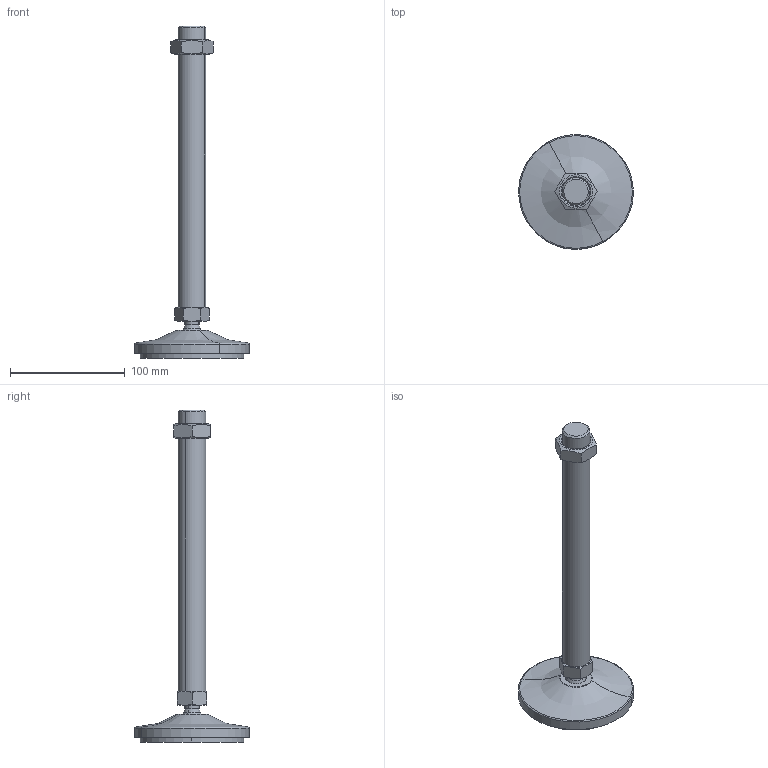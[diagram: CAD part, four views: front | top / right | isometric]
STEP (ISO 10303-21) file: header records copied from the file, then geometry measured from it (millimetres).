
FILE_DESCRIPTION(('CATIA V5 STEP Exchange'),'2;1');
FILE_NAME('C:\Users\ALI OZGUN\Desktop\alhan\saplama2\560102429AV.stp','2017-09-21T10:31:31+00:00',('none'),('none'),'CATIA Version 5 Release 21 GA (IN-10)','CATIA V5 STEP AP203','none');
FILE_SCHEMA(('CONFIG_CONTROL_DESIGN'));
Length unit declared in the file: millimetre
Products named in the file (1): 560102429AV
Bounding box: 99.97 x 99.97 x 289 mm (x, y, z)
Volume: 244692 mm3; surface area: 60275 mm2
Topology: 4 solids, 4 shells, 76 faces, 166 edges, 99 vertices
Faces by surface type: cone 28, plane 22, cylinder 16, torus 4, revolution 4, sphere 2
Entity records: 2200 total; most frequent: CARTESIAN_POINT 736, ORIENTED_EDGE 328, DIRECTION 203, EDGE_CURVE 164, AXIS2_PLACEMENT_3D 112, VERTEX_POINT 99, EDGE_LOOP 83, ADVANCED_FACE 76
